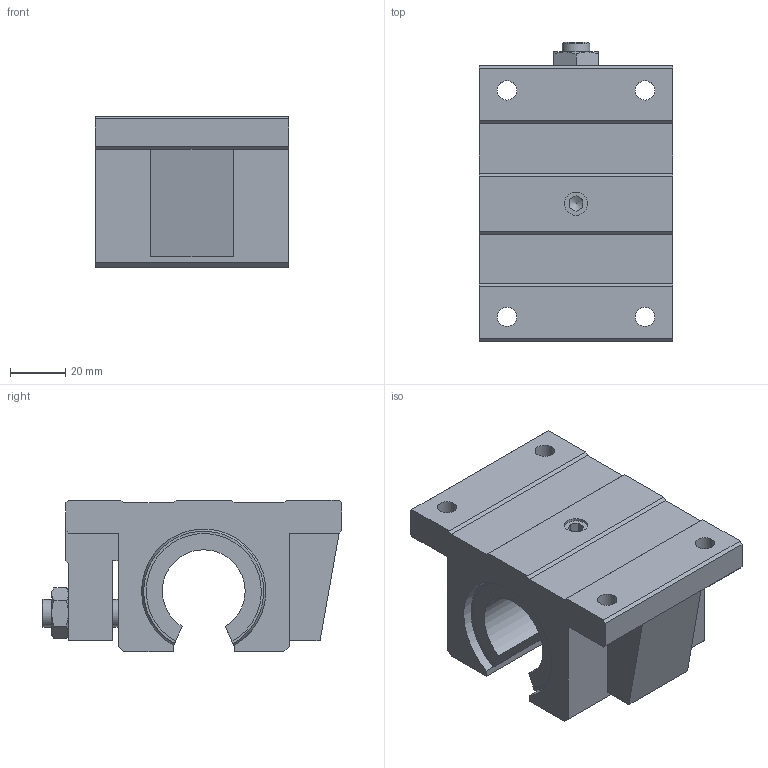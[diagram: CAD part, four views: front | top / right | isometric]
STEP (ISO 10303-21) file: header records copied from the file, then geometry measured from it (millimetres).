
FILE_DESCRIPTION((''),'2;1');
FILE_NAME('D:\製品 (図面)\カタログ用3D\GT30H.stp','2010-06-07T16:11:28',('Tsuchiya'),(''),'Autodesk Inventor 10','Autodesk Inventor 10','');
FILE_SCHEMA(('AUTOMOTIVE_DESIGN { 1 0 10303 214 1 1 1 1 }'));
Length unit declared in the file: millimetre
Products named in the file (1): GT30H
Bounding box: 70 x 108.5 x 55 mm (x, y, z)
Volume: 238348.1 mm3; surface area: 40078.5 mm2
Topology: 1 solids, 1 shells, 111 faces, 306 edges, 196 vertices
Faces by surface type: plane 71, cylinder 19, cone 15, bspline 4, torus 2
Full cylindrical faces by diameter (mm): 7 x2, 10 x2
Entity records: 3456 total; most frequent: CARTESIAN_POINT 752, ORIENTED_EDGE 578, DIRECTION 524, EDGE_CURVE 289, VECTOR 190, LINE 190, VERTEX_POINT 189, AXIS2_PLACEMENT_3D 167
